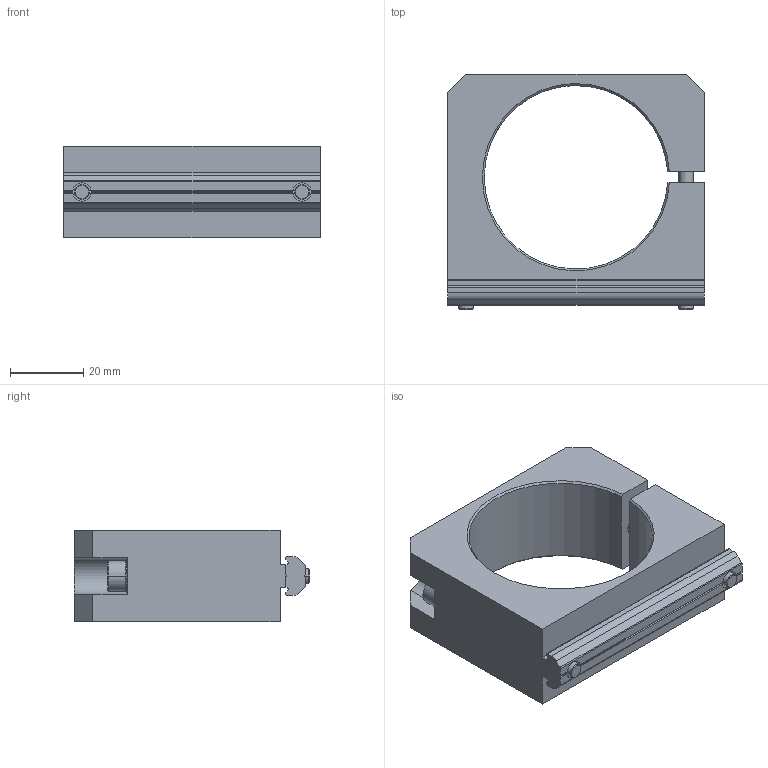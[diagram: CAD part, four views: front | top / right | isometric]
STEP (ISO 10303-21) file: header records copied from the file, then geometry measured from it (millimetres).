
FILE_DESCRIPTION (( 'STEP AP214' ), '1' );
FILE_NAME ('SMBC-5070.STEP', '2019-10-31T06:18:34', ( '微软用户' ), ( '微软中国' ), 'SwSTEP 2.0', 'SolidWorks 2016', '' );
FILE_SCHEMA (( 'AUTOMOTIVE_DESIGN' ));
Length unit declared in the file: millimetre
Products named in the file (5): PTS-M5; PTN-M5P60; PTC-M5L50; SMBC-5070
Assembly tree (6 placements, depth 2):
  SMBC-5070
    SMBC-5070
    PTC-M5L50  x2
    PTN-M5P60
    PTS-M5  x2
Bounding box: 70 x 64.05 x 25 mm (x, y, z)
Volume: 49000.8 mm3; surface area: 20420.4 mm2
Topology: 6 solids, 6 shells, 457 faces, 1327 edges, 878 vertices
Faces by surface type: plane 391, cylinder 47, cone 19
Entity records: 9393 total; most frequent: CARTESIAN_POINT 1803, ORIENTED_EDGE 1586, DIRECTION 1565, EDGE_CURVE 793, AXIS2_PLACEMENT_3D 526, VERTEX_POINT 524, LINE 513, VECTOR 513
